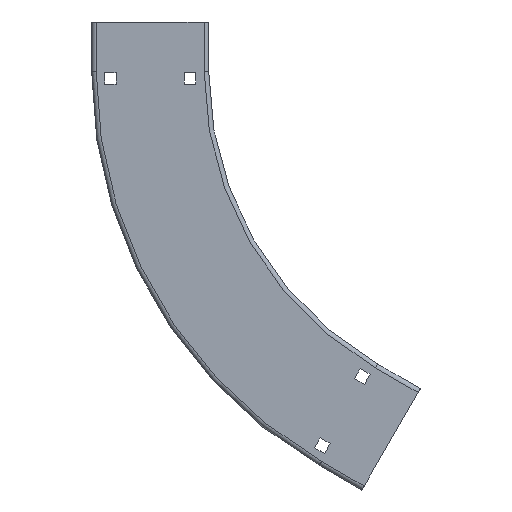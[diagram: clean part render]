
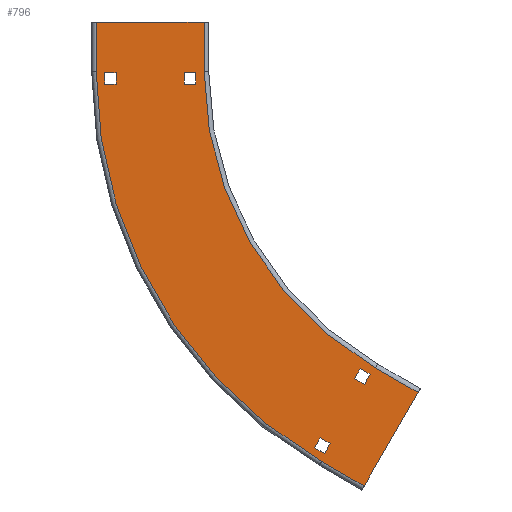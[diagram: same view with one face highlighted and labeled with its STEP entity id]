
A CAD part, left-side view. The second image highlights one B-rep face of the part: STEP entity #796.
In plain terms, the highlighted planar face has unit normal (-1, 0, 0).
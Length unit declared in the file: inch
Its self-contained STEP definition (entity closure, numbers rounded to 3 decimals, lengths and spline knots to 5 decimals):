
#1=DIRECTION('',(0.,-0.5,-0.866));
#2=VECTOR('',#1,3.833);
#3=CARTESIAN_POINT('',(0.,6.48196,14.72708));
#4=LINE('',#3,#2);
#5=DIRECTION('',(0.,1.,0.));
#6=VECTOR('',#5,3.833);
#7=CARTESIAN_POINT('',(0.,12.162,-1.75));
#8=LINE('',#7,#6);
#9=DIRECTION('',(0.,0.,-1.));
#10=VECTOR('',#9,0.41);
#11=CARTESIAN_POINT('',(0.,15.701,0.455));
#12=LINE('',#11,#10);
#13=DIRECTION('',(0.,-1.,0.));
#14=VECTOR('',#13,0.41);
#15=CARTESIAN_POINT('',(0.,15.701,0.045));
#16=LINE('',#15,#14);
#17=DIRECTION('',(0.,0.,1.));
#18=VECTOR('',#17,0.41);
#19=CARTESIAN_POINT('',(0.,15.291,0.045));
#20=LINE('',#19,#18);
#21=DIRECTION('',(0.,1.,0.));
#22=VECTOR('',#21,0.41);
#23=CARTESIAN_POINT('',(0.,15.291,0.455));
#24=LINE('',#23,#22);
#25=DIRECTION('',(0.,1.,0.));
#26=VECTOR('',#25,0.41);
#27=CARTESIAN_POINT('',(0.,12.456,0.455));
#28=LINE('',#27,#26);
#29=DIRECTION('',(0.,0.,-1.));
#30=VECTOR('',#29,0.41);
#31=CARTESIAN_POINT('',(0.,12.866,0.455));
#32=LINE('',#31,#30);
#33=DIRECTION('',(0.,-1.,0.));
#34=VECTOR('',#33,0.41);
#35=CARTESIAN_POINT('',(0.,12.866,0.045));
#36=LINE('',#35,#34);
#37=DIRECTION('',(0.,0.,1.));
#38=VECTOR('',#37,0.41);
#39=CARTESIAN_POINT('',(0.,12.456,0.045));
#40=LINE('',#39,#38);
#41=DIRECTION('',(0.,-0.5,-0.866));
#42=VECTOR('',#41,0.41);
#43=CARTESIAN_POINT('',(0.,6.82585,10.91271));
#44=LINE('',#43,#42);
#45=DIRECTION('',(0.,-0.866,0.5));
#46=VECTOR('',#45,0.41);
#47=CARTESIAN_POINT('',(0.,6.62085,10.55764));
#48=LINE('',#47,#46);
#49=DIRECTION('',(0.,0.5,0.866));
#50=VECTOR('',#49,0.41);
#51=CARTESIAN_POINT('',(0.,6.26578,10.76264));
#52=LINE('',#51,#50);
#53=DIRECTION('',(0.,0.866,-0.5));
#54=VECTOR('',#53,0.41);
#55=CARTESIAN_POINT('',(0.,6.47078,11.11771));
#56=LINE('',#55,#54);
#57=DIRECTION('',(0.,0.5,0.866));
#58=VECTOR('',#57,0.41);
#59=CARTESIAN_POINT('',(0.,7.6835,13.2182));
#60=LINE('',#59,#58);
#61=DIRECTION('',(0.,0.866,-0.5));
#62=VECTOR('',#61,0.41);
#63=CARTESIAN_POINT('',(0.,7.8885,13.57327));
#64=LINE('',#63,#62);
#65=DIRECTION('',(0.,-0.5,-0.866));
#66=VECTOR('',#65,0.41);
#67=CARTESIAN_POINT('',(0.,8.24357,13.36827));
#68=LINE('',#67,#66);
#69=DIRECTION('',(0.,-0.866,0.5));
#70=VECTOR('',#69,0.41);
#71=CARTESIAN_POINT('',(0.,8.03857,13.0132));
#72=LINE('',#71,#70);
#73=DIRECTION('',(0.,0.,1.));
#74=VECTOR('',#73,1.75);
#75=CARTESIAN_POINT('',(0.,15.995,-1.75));
#76=LINE('',#75,#74);
#114=DIRECTION('',(0.,0.,-1.));
#115=VECTOR('',#114,1.75);
#116=CARTESIAN_POINT('',(0.,12.162,0.));
#117=LINE('',#116,#115);
#123=CARTESIAN_POINT('',(0.,0.,0.));
#124=DIRECTION('',(-1.,0.,0.));
#125=DIRECTION('',(0.,0.5,0.866));
#126=AXIS2_PLACEMENT_3D('',#123,#124,#125);
#128=DIRECTION('',(0.,0.866,-0.5));
#129=VECTOR('',#128,1.75);
#130=CARTESIAN_POINT('',(0.,4.56546,11.4076));
#131=LINE('',#130,#129);
#169=DIRECTION('',(0.,-0.866,0.5));
#170=VECTOR('',#169,1.75);
#171=CARTESIAN_POINT('',(0.,7.9975,13.85208));
#172=LINE('',#171,#170);
#178=CARTESIAN_POINT('',(0.,0.,0.));
#179=DIRECTION('',(1.,0.,0.));
#180=DIRECTION('',(0.,1.,0.));
#181=AXIS2_PLACEMENT_3D('',#178,#179,#180);
#573=CARTESIAN_POINT('',(0.,4.56546,11.4076));
#575=VERTEX_POINT('',#573);
#579=CARTESIAN_POINT('',(0.,6.081,10.5326));
#581=VERTEX_POINT('',#579);
#585=CARTESIAN_POINT('',(0.,12.162,0.));
#587=VERTEX_POINT('',#585);
#591=CARTESIAN_POINT('',(0.,12.162,-1.75));
#593=VERTEX_POINT('',#591);
#621=CARTESIAN_POINT('',(0.,15.995,-1.75));
#622=VERTEX_POINT('',#621);
#623=CARTESIAN_POINT('',(0.,6.48196,14.72708));
#624=VERTEX_POINT('',#623);
#629=CARTESIAN_POINT('',(0.,15.995,0.));
#631=VERTEX_POINT('',#629);
#635=CARTESIAN_POINT('',(0.,7.9975,13.85208));
#637=VERTEX_POINT('',#635);
#669=CARTESIAN_POINT('',(0.,15.701,0.455));
#670=CARTESIAN_POINT('',(0.,15.701,0.045));
#671=VERTEX_POINT('',#669);
#672=VERTEX_POINT('',#670);
#673=CARTESIAN_POINT('',(0.,15.291,0.045));
#674=VERTEX_POINT('',#673);
#675=CARTESIAN_POINT('',(0.,15.291,0.455));
#676=VERTEX_POINT('',#675);
#677=CARTESIAN_POINT('',(0.,12.456,0.455));
#678=CARTESIAN_POINT('',(0.,12.866,0.455));
#679=VERTEX_POINT('',#677);
#680=VERTEX_POINT('',#678);
#681=CARTESIAN_POINT('',(0.,12.866,0.045));
#682=VERTEX_POINT('',#681);
#683=CARTESIAN_POINT('',(0.,12.456,0.045));
#684=VERTEX_POINT('',#683);
#701=CARTESIAN_POINT('',(0.,6.82585,10.91271));
#702=CARTESIAN_POINT('',(0.,6.62085,10.55764));
#703=VERTEX_POINT('',#701);
#704=VERTEX_POINT('',#702);
#705=CARTESIAN_POINT('',(0.,6.26578,10.76264));
#706=VERTEX_POINT('',#705);
#707=CARTESIAN_POINT('',(0.,6.47078,11.11771));
#708=VERTEX_POINT('',#707);
#709=CARTESIAN_POINT('',(0.,7.6835,13.2182));
#710=CARTESIAN_POINT('',(0.,7.8885,13.57327));
#711=VERTEX_POINT('',#709);
#712=VERTEX_POINT('',#710);
#713=CARTESIAN_POINT('',(0.,8.24357,13.36827));
#714=VERTEX_POINT('',#713);
#715=CARTESIAN_POINT('',(0.,8.03857,13.0132));
#716=VERTEX_POINT('',#715);
#733=CARTESIAN_POINT('',(0.,0.,0.));
#734=DIRECTION('',(1.,0.,0.));
#735=DIRECTION('',(0.,0.,-1.));
#736=AXIS2_PLACEMENT_3D('',#733,#734,#735);
#737=PLANE('',#736);
#739=ORIENTED_EDGE('',*,*,#738,.T.);
#741=ORIENTED_EDGE('',*,*,#740,.T.);
#743=ORIENTED_EDGE('',*,*,#742,.T.);
#745=ORIENTED_EDGE('',*,*,#744,.T.);
#747=ORIENTED_EDGE('',*,*,#746,.T.);
#749=ORIENTED_EDGE('',*,*,#748,.T.);
#751=ORIENTED_EDGE('',*,*,#750,.T.);
#753=ORIENTED_EDGE('',*,*,#752,.T.);
#754=EDGE_LOOP('',(#739,#741,#743,#745,#747,#749,#751,#753));
#755=FACE_OUTER_BOUND('',#754,.F.);
#757=ORIENTED_EDGE('',*,*,#756,.T.);
#759=ORIENTED_EDGE('',*,*,#758,.T.);
#761=ORIENTED_EDGE('',*,*,#760,.T.);
#763=ORIENTED_EDGE('',*,*,#762,.T.);
#764=EDGE_LOOP('',(#757,#759,#761,#763));
#765=FACE_BOUND('',#764,.F.);
#767=ORIENTED_EDGE('',*,*,#766,.T.);
#769=ORIENTED_EDGE('',*,*,#768,.T.);
#771=ORIENTED_EDGE('',*,*,#770,.T.);
#773=ORIENTED_EDGE('',*,*,#772,.T.);
#774=EDGE_LOOP('',(#767,#769,#771,#773));
#775=FACE_BOUND('',#774,.F.);
#777=ORIENTED_EDGE('',*,*,#776,.T.);
#779=ORIENTED_EDGE('',*,*,#778,.T.);
#781=ORIENTED_EDGE('',*,*,#780,.T.);
#783=ORIENTED_EDGE('',*,*,#782,.T.);
#784=EDGE_LOOP('',(#777,#779,#781,#783));
#785=FACE_BOUND('',#784,.F.);
#787=ORIENTED_EDGE('',*,*,#786,.T.);
#789=ORIENTED_EDGE('',*,*,#788,.T.);
#791=ORIENTED_EDGE('',*,*,#790,.T.);
#793=ORIENTED_EDGE('',*,*,#792,.T.);
#794=EDGE_LOOP('',(#787,#789,#791,#793));
#795=FACE_BOUND('',#794,.F.);
#796=ADVANCED_FACE('',(#755,#765,#775,#785,#795),#737,.F.);
#127=CIRCLE('',#126,12.162);
#182=CIRCLE('',#181,15.995);
#738=EDGE_CURVE('',#622,#631,#76,.T.);
#740=EDGE_CURVE('',#631,#637,#182,.T.);
#742=EDGE_CURVE('',#637,#624,#172,.T.);
#744=EDGE_CURVE('',#624,#575,#4,.T.);
#746=EDGE_CURVE('',#575,#581,#131,.T.);
#748=EDGE_CURVE('',#581,#587,#127,.T.);
#750=EDGE_CURVE('',#587,#593,#117,.T.);
#752=EDGE_CURVE('',#593,#622,#8,.T.);
#756=EDGE_CURVE('',#671,#672,#12,.T.);
#758=EDGE_CURVE('',#672,#674,#16,.T.);
#760=EDGE_CURVE('',#674,#676,#20,.T.);
#762=EDGE_CURVE('',#676,#671,#24,.T.);
#766=EDGE_CURVE('',#679,#680,#28,.T.);
#768=EDGE_CURVE('',#680,#682,#32,.T.);
#770=EDGE_CURVE('',#682,#684,#36,.T.);
#772=EDGE_CURVE('',#684,#679,#40,.T.);
#776=EDGE_CURVE('',#703,#704,#44,.T.);
#778=EDGE_CURVE('',#704,#706,#48,.T.);
#780=EDGE_CURVE('',#706,#708,#52,.T.);
#782=EDGE_CURVE('',#708,#703,#56,.T.);
#786=EDGE_CURVE('',#711,#712,#60,.T.);
#788=EDGE_CURVE('',#712,#714,#64,.T.);
#790=EDGE_CURVE('',#714,#716,#68,.T.);
#792=EDGE_CURVE('',#716,#711,#72,.T.);
